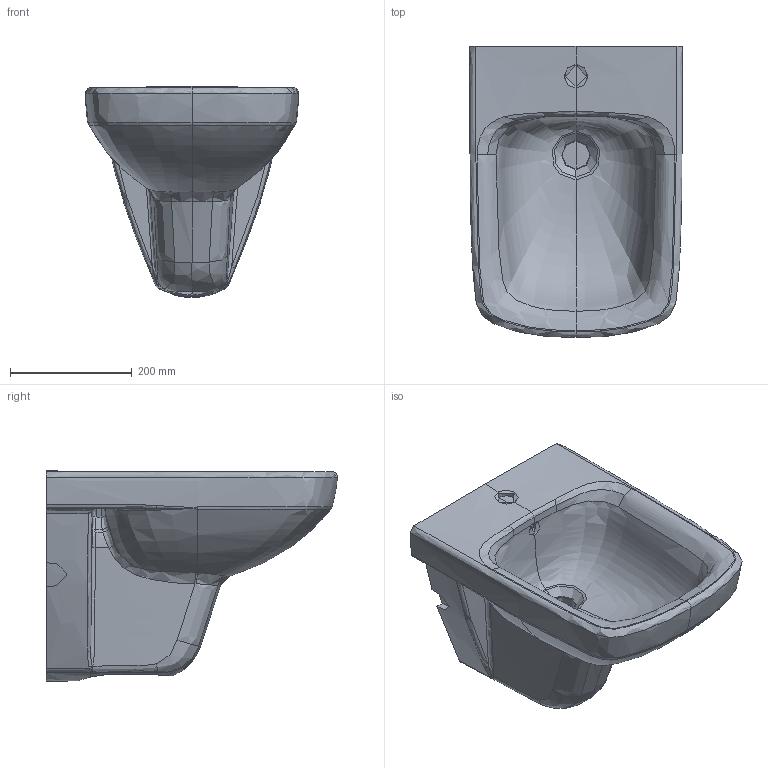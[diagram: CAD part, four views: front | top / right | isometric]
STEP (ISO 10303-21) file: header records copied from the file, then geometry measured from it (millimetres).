
FILE_DESCRIPTION(/* description */ (''),/* implementation_level */ '2;1');
FILE_NAME(/* name */ 'C:\Planerdaten\Export PLA\500.272.01.1\stp\500272.stp',/* time_stamp */ '2020-05-27T08:26:17+02:00',/* author */ ('JANAN'),/* organization */ (''),/* preprocessor_version */ 'ST-DEVELOPER v16.13',/* originating_system */ 'Autodesk Inventor 2018',/* authorisation */ '');
FILE_SCHEMA (('AUTOMOTIVE_DESIGN { 1 0 10303 214 3 1 1 }'));
Products named in the file (1): WBI Ge+SnvCp T48 eck m/ÜLF vkA
Bounding box: 350.02 x 478.24 x 346.78 mm (x, y, z)
Volume: 17784463.4 mm3; surface area: 708451.9 mm2
Topology: 1 solids, 1 shells, 235 faces, 574 edges, 341 vertices
Faces by surface type: bspline 182, plane 31, cylinder 14, sphere 4, cone 4
Full cylindrical faces by diameter (mm): 20 x4, 22 x1, 35 x1, 46 x1, 50 x1
Entity records: 49123 total; most frequent: CARTESIAN_POINT 44710, ORIENTED_EDGE 1114, EDGE_CURVE 557, DIRECTION 488, VERTEX_POINT 336, B_SPLINE_CURVE_WITH_KNOTS 309, EDGE_LOOP 247, STYLED_ITEM 236
